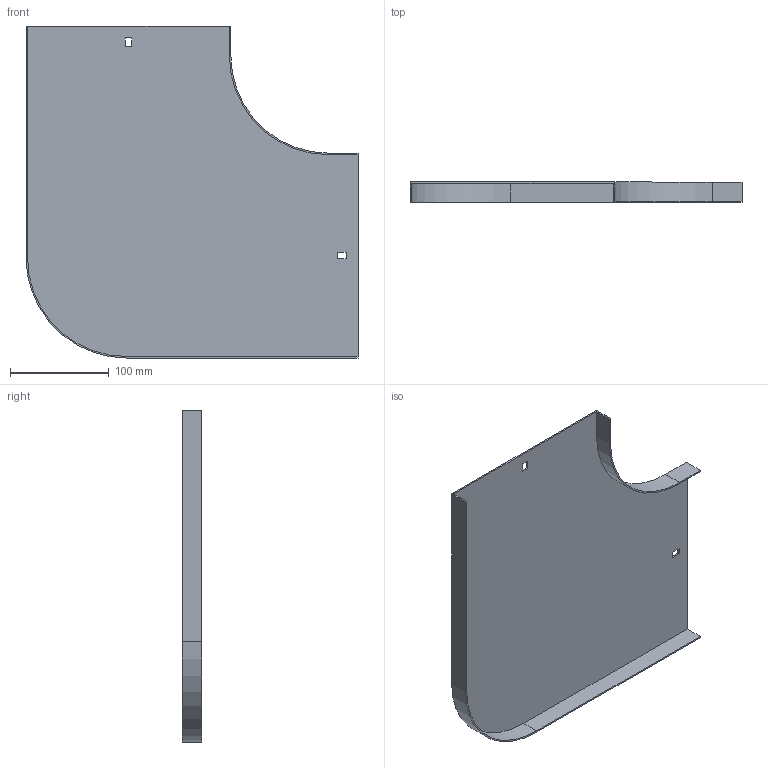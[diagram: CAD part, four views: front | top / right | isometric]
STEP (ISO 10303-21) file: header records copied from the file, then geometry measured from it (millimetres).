
FILE_DESCRIPTION (( 'STEP AP214' ), '1' );
FILE_NAME ('10G1P200.step', '2025-02-21T12:46:29', ( '' ), ( '' ), 'SwSTEP 2.0', 'SolidWorks 2023', '' );
FILE_SCHEMA (( 'AUTOMOTIVE_DESIGN' ));
Length unit declared in the file: millimetre
Products named in the file (1): 10G1P200
Bounding box: 335.5 x 20 x 335.5 mm (x, y, z)
Volume: 167073.3 mm3; surface area: 224852.6 mm2
Topology: 1 solids, 1 shells, 26 faces, 72 edges, 48 vertices
Faces by surface type: plane 22, cylinder 4
Entity records: 855 total; most frequent: CARTESIAN_POINT 147, ORIENTED_EDGE 144, DIRECTION 134, EDGE_CURVE 72, LINE 64, VECTOR 64, VERTEX_POINT 48, AXIS2_PLACEMENT_3D 35
